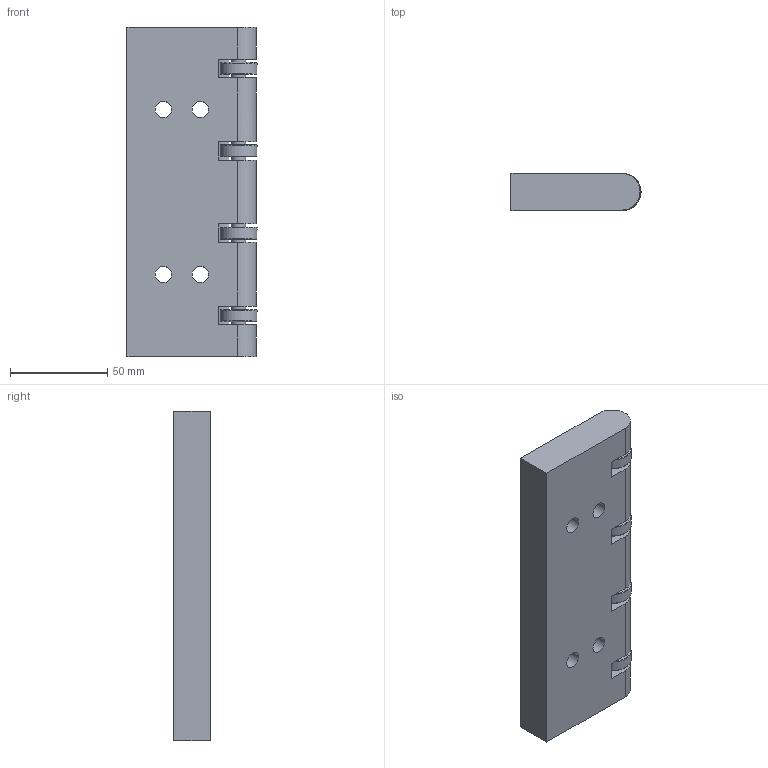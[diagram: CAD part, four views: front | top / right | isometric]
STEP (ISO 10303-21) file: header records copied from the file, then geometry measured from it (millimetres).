
FILE_DESCRIPTION(('CATIA V5 STEP Exchange'),'2;1');
FILE_NAME('S:\3D e 2D per Clienti\3D definitivi\Part 200\P22812_01.stp','2017-11-06T13:27:21+00:00',('none'),('none'),'Version 5-6 Release 2012','CATIA V5 STEP AP203','none');
FILE_SCHEMA(('CONFIG_CONTROL_DESIGN'));
Length unit declared in the file: millimetre
Products named in the file (1): 1
Bounding box: 67 x 19 x 169.6 mm (x, y, z)
Volume: 196373.7 mm3; surface area: 36494.4 mm2
Topology: 1 solids, 1 shells, 98 faces, 240 edges, 152 vertices
Faces by surface type: cylinder 49, plane 25, torus 16, cone 8
Entity records: 2911 total; most frequent: CARTESIAN_POINT 618, ORIENTED_EDGE 480, DIRECTION 395, EDGE_CURVE 240, AXIS2_PLACEMENT_3D 211, VERTEX_POINT 152, CIRCLE 127, EDGE_LOOP 122
